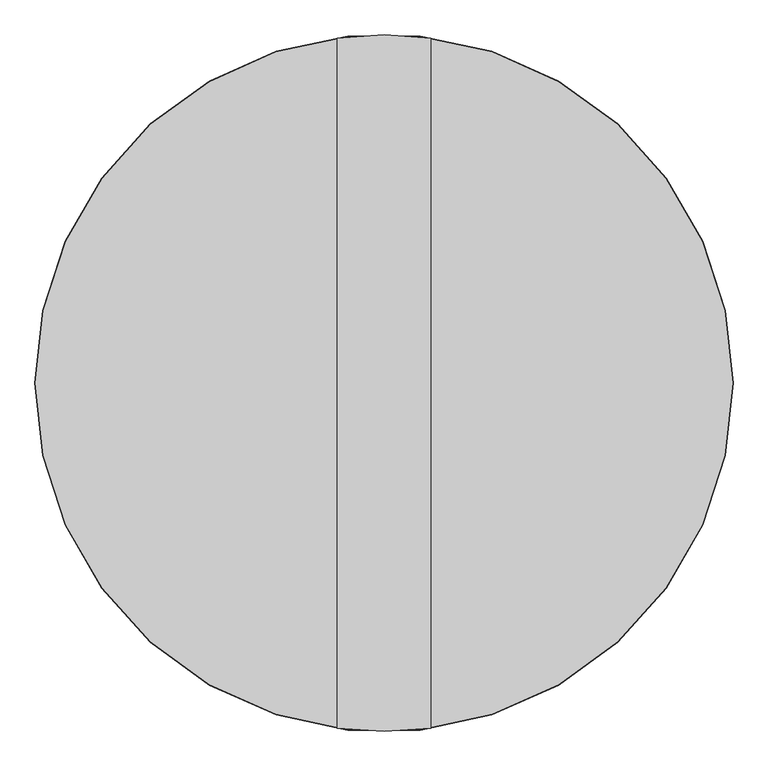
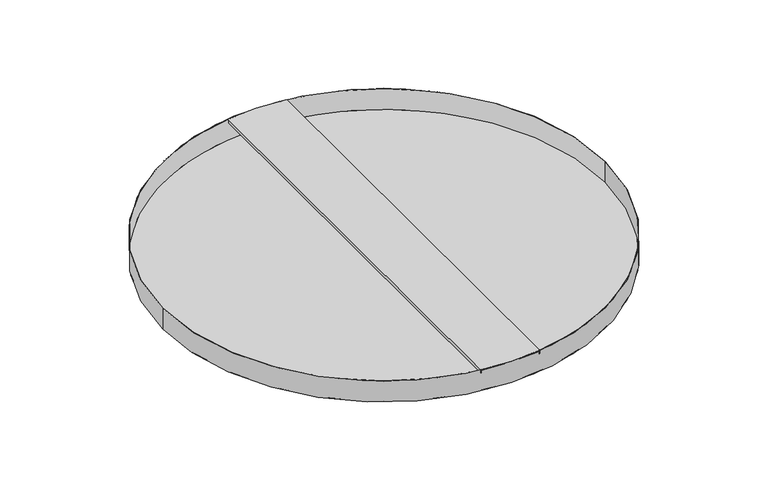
"""IFC4 building model written with IfcOpenShell, lengths in millimetres: proxy geometry, durlum_TOMEO-R : durlum_TOMEO-R 1200 TR."""

import ifcopenshell
import ifcopenshell.guid

model = None  # the IFC model being written
_history = None  # IfcOwnerHistory: only IFC2X3 demands one
_inside = {}  # id of a spatial element -> (the spatial element, [elements in it])
_under = {}  # id of a project, library or spatial element -> (it, [spatial elements below it])
_declared = {}  # id of a project -> (the project, [libraries it declares])
_typed = {}  # id of a type object -> (the type object, [elements of that type])
_made_of = {}  # id of a material, layer set ... -> (it, [elements and type objects made of it])


def new_model(schema):
    """Start an empty IFC model of exactly this schema.

    Asked for "IFC4X3", IfcOpenShell would pick the latest addendum, in which some entities
    have other attributes; the version numbers below select the first issue.
    IFC2X3 requires an IfcOwnerHistory on every rooted entity: one is made here for all.
    """
    global model, _history
    if schema == "IFC4X3":
        model = ifcopenshell.file(schema_version=(4, 3, 0, 0))
    else:
        model = ifcopenshell.file(schema=schema)
    _inside.clear()
    _under.clear()
    _declared.clear()
    _typed.clear()
    _made_of.clear()
    _history = None
    if model.schema == "IFC2X3":
        org = make("IfcOrganization", Name="unknown")
        user = make(
            "IfcPersonAndOrganization",
            ThePerson=make("IfcPerson", FamilyName="unknown"),
            TheOrganization=org,
        )
        app = make(
            "IfcApplication",
            ApplicationDeveloper=org,
            Version="unknown",
            ApplicationFullName="unknown",
            ApplicationIdentifier="unknown",
        )
        _history = make(
            "IfcOwnerHistory",
            OwningUser=user,
            OwningApplication=app,
            ChangeAction="ADDED",
            CreationDate=0,
        )
    return model


def make(cls, **values):
    """One entity of the class cls with the attributes given. An attribute that is None is left unset."""
    return model.create_entity(
        cls, **{name: value for name, value in values.items() if value is not None}
    )


def rooted(cls, **values):
    """An entity with a GlobalId (a new one), such as an element, a storey or a relation."""
    return make(cls, GlobalId=ifcopenshell.guid.new(), OwnerHistory=_history, **values)


def si_unit(unit_type, name, prefix=None):
    """IfcSIUnit, for example si_unit("LENGTHUNIT", "METRE", prefix="MILLI")."""
    return make("IfcSIUnit", UnitType=unit_type, Prefix=prefix, Name=name)


def assignment(units):
    """IfcUnitAssignment: the units of a project."""
    return None if units is None else make("IfcUnitAssignment", Units=units)


def point(xyz):
    """IfcCartesianPoint."""
    return None if xyz is None else make("IfcCartesianPoint", Coordinates=xyz)


def direction(xyz):
    """IfcDirection."""
    return None if xyz is None else make("IfcDirection", DirectionRatios=xyz)


def frame(location, z_axis=None, x_axis=None):
    """IfcAxis2Placement3D, a coordinate frame: its origin and axes. An axis left out is left unset."""
    return make(
        "IfcAxis2Placement3D",
        Location=point(location),
        Axis=direction(z_axis),
        RefDirection=direction(x_axis),
    )


def frame_2d(location, x_axis=None):
    """IfcAxis2Placement2D, a coordinate frame in the plane: its origin and x axis."""
    return make(
        "IfcAxis2Placement2D", Location=point(location), RefDirection=direction(x_axis)
    )


def origin():
    """The frame at (0, 0, 0) with its axes left unset."""
    return frame((0.0, 0.0, 0.0))


def origin_with_axes():
    """The frame at (0, 0, 0) with the z axis (0, 0, 1) and the x axis (1, 0, 0) written out."""
    return frame((0.0, 0.0, 0.0), z_axis=(0.0, 0.0, 1.0), x_axis=(1.0, 0.0, 0.0))


def origin_2d():
    """The frame at (0, 0) in the plane with its x axis left unset."""
    return frame_2d((0.0, 0.0))


def place(relative_to, where):
    """IfcLocalPlacement: puts the frame where relative to a parent placement (None: the world)."""
    return make(
        "IfcLocalPlacement", PlacementRelTo=relative_to, RelativePlacement=where
    )


def context(
    kind, dimensions, precision=None, world=None, true_north=None, identifier=None
):
    """IfcGeometricRepresentationContext, for example the 3D "Model" context."""
    return make(
        "IfcGeometricRepresentationContext",
        ContextIdentifier=identifier,
        ContextType=kind,
        CoordinateSpaceDimension=dimensions,
        Precision=precision,
        WorldCoordinateSystem=world,
        TrueNorth=true_north,
    )


def project(units=None, contexts=None):
    """IfcProject with its units and contexts."""
    return rooted(
        "IfcProject",
        Name="project",
        RepresentationContexts=contexts,
        UnitsInContext=assignment(units),
    )


def spatial(cls, under=None, at=None, **own):
    """A site, building, storey or space (cls), placed at a placement, below another one or the project."""
    s = rooted(cls, ObjectPlacement=at, **own)
    if under is not None:
        _under.setdefault(under.id(), (under, []))[1].append(s)
    return s


def circle_curve(where, radius):
    """IfcCircle in the frame where."""
    return make("IfcCircle", Position=where, Radius=radius)


def trimmed(basis, trim1, trim2, sense, master):
    """IfcTrimmedCurve: the piece of a basis curve between two trims."""
    return make(
        "IfcTrimmedCurve",
        BasisCurve=basis,
        Trim1=trim1,
        Trim2=trim2,
        SenseAgreement=sense,
        MasterRepresentation=master,
    )


def segment(curve, same_sense, transition):
    """IfcCompositeCurveSegment."""
    return make(
        "IfcCompositeCurveSegment",
        Transition=transition,
        SameSense=same_sense,
        ParentCurve=curve,
    )


def composite_curve(segments, self_intersect=None):
    """IfcCompositeCurve: segments joined end to end."""
    return make("IfcCompositeCurve", Segments=segments, SelfIntersect=self_intersect)


def outline(outer, holes=None, kind="AREA"):
    """IfcArbitraryClosedProfileDef: a profile drawn as a closed curve; with holes, ...WithVoids."""
    if holes is None:
        return make("IfcArbitraryClosedProfileDef", ProfileType=kind, OuterCurve=outer)
    return make(
        "IfcArbitraryProfileDefWithVoids",
        ProfileType=kind,
        OuterCurve=outer,
        InnerCurves=holes,
    )


def extrude(swept, where, along, depth):
    """IfcExtrudedAreaSolid: the profile swept, set in the frame where, extruded along a direction by depth."""
    return make(
        "IfcExtrudedAreaSolid",
        SweptArea=swept,
        Position=where,
        ExtrudedDirection=direction(along),
        Depth=depth,
    )


def shape(context_of_items, identifier, shape_type, items):
    """IfcShapeRepresentation: the items that make up one representation, for example the "Body"."""
    return make(
        "IfcShapeRepresentation",
        ContextOfItems=context_of_items,
        RepresentationIdentifier=identifier,
        RepresentationType=shape_type,
        Items=items,
    )


def source(mapping_origin, context_of_items, identifier, shape_type, items):
    """IfcRepresentationMap: a shape defined once, which mapped items show again and again."""
    return make(
        "IfcRepresentationMap",
        MappingOrigin=mapping_origin,
        MappedRepresentation=shape(context_of_items, identifier, shape_type, items),
    )


def transform(
    local_origin,
    x_axis=None,
    y_axis=None,
    z_axis=None,
    scale=None,
    scale2=None,
    scale3=None,
    uniform=True,
):
    """IfcCartesianTransformationOperator3D, or its non-uniform kind. x_axis, y_axis, z_axis: its Axis1, 2, 3."""
    if uniform:
        return make(
            "IfcCartesianTransformationOperator3D",
            Axis1=direction(x_axis),
            Axis2=direction(y_axis),
            LocalOrigin=point(local_origin),
            Scale=scale,
            Axis3=direction(z_axis),
        )
    return make(
        "IfcCartesianTransformationOperator3DnonUniform",
        Axis1=direction(x_axis),
        Axis2=direction(y_axis),
        LocalOrigin=point(local_origin),
        Scale=scale,
        Axis3=direction(z_axis),
        Scale2=scale2,
        Scale3=scale3,
    )


def mapped(mapping_source, mapping_target):
    """IfcMappedItem: shows the shape of a source again, moved by a transform."""
    return make(
        "IfcMappedItem", MappingSource=mapping_source, MappingTarget=mapping_target
    )


def made_of(thing, what):
    """Note that an element or type object is made of a material, layer set ...; save() writes the relation."""
    if what is not None:
        _made_of.setdefault(what.id(), (what, []))[1].append(thing)
    return thing


def element(
    cls,
    number,
    at=None,
    inside=None,
    cuts=None,
    type_object=None,
    material=None,
    context=None,
    identifier="Body",
    shape_type=None,
    held_by="IfcProductDefinitionShape",
    body=None,
    shapes=None,
    **own,
):
    """One element of the class cls, such as IfcWall. Its Tag is "e" and its number.

    at: its placement. inside: the storey or other place that contains it. cuts: it is an
    opening in that element (IfcRelVoidsElement). A single representation is given by context,
    identifier, shape_type and body (its items); several are given by shapes. held_by: the class
    of the entity that holds the representations. save() writes the other relations.
    """
    e = rooted(cls, Tag="e%d" % number, ObjectPlacement=at, **own)
    if body is not None:
        shapes = [shape(context, identifier, shape_type, body)]
    if shapes is not None:
        e.Representation = make(held_by, Representations=shapes)
    if inside is not None:
        _inside.setdefault(inside.id(), (inside, []))[1].append(e)
    if cuts is not None:
        rooted(
            "IfcRelVoidsElement", RelatingBuildingElement=cuts, RelatedOpeningElement=e
        )
    if type_object is not None:
        _typed.setdefault(type_object.id(), (type_object, []))[1].append(e)
    return made_of(e, material)


def aggregate(whole, parts):
    """IfcRelAggregates: a whole, such as a stair, and the parts it consists of."""
    return rooted("IfcRelAggregates", RelatingObject=whole, RelatedObjects=parts)


def save(model, path):
    """Write the relations noted so far, then the file.

    IfcRelAggregates (storeys below a building ...), IfcRelContainedInSpatialStructure (elements
    in a storey), IfcRelDefinesByType, IfcRelAssociatesMaterial and IfcRelDeclares: one each for
    every whole, place, type object, material and project.
    """
    for whole, parts in _under.values():
        aggregate(whole, parts)
    for where, things in _inside.values():
        rooted(
            "IfcRelContainedInSpatialStructure",
            RelatedElements=things,
            RelatingStructure=where,
        )
    for kind, things in _typed.values():
        rooted("IfcRelDefinesByType", RelatedObjects=things, RelatingType=kind)
    for what, things in _made_of.values():
        rooted("IfcRelAssociatesMaterial", RelatedObjects=things, RelatingMaterial=what)
    for by, libraries in _declared.values():
        rooted("IfcRelDeclares", RelatingContext=by, RelatedDefinitions=libraries)
    model.write(path)


def plane_surface(at):
    """IfcPlane: the flat surface through the origin of the frame at, square to its z axis."""
    return make("IfcPlane", Position=at)


def cylinder_surface(at, radius):
    """IfcCylindricalSurface: all points at the distance radius from the z axis of the frame at."""
    return make("IfcCylindricalSurface", Position=at, Radius=radius)


def advanced_brep(points, edges, surfaces, faces):
    """IfcAdvancedBrep: a solid bounded by faces that lie on surfaces and meet in shared edges.

    An edge is (start, end): straight between two places in points (the first is 0);
    or (start, end, curve); or (start, end, curve, False) where it runs against its curve.
    A face is (place in surfaces, loops), or (place, loops, False) where it looks against
    its surface's normal. A loop lists edges by number (the first is 1), with a minus sign
    where the edge is run from its end to its start. The first loop is the outer one.
    """
    corners = [point(p) for p in points]
    vertices = [make("IfcVertexPoint", VertexGeometry=c) for c in corners]
    made = []
    for start, end, *more in edges:
        made.append(
            make(
                "IfcEdgeCurve",
                EdgeStart=vertices[start],
                EdgeEnd=vertices[end],
                EdgeGeometry=more[0] if more else make("IfcPolyline", Points=[corners[start], corners[end]]),
                SameSense=more[1] if len(more) > 1 else True,
            )
        )
    hull = []
    for where, loops, *sense in faces:
        bounds = []
        for j, loop in enumerate(loops):
            ring = [make("IfcOrientedEdge", EdgeElement=made[abs(k) - 1], Orientation=k > 0) for k in loop]
            bounds.append(
                make(
                    "IfcFaceOuterBound" if j == 0 else "IfcFaceBound",
                    Bound=make("IfcEdgeLoop", EdgeList=ring),
                    Orientation=True,
                )
            )
        hull.append(make("IfcAdvancedFace", Bounds=bounds, FaceSurface=surfaces[where], SameSense=sense[0] if sense else True))
    return make("IfcAdvancedBrep", Outer=make("IfcClosedShell", CfsFaces=hull))


def generic_models_4925be76(model_context):
    return source(origin(), model_context, "Body", "SolidModel", [
        advanced_brep(
        [(-80.0, 593.6337255, 60.0), (-80.0, -593.6337255, 60.0), (0.0, -599.0, 60.0), (80.0, -593.6337255, 60.0), (80.0, 593.6337255, 60.0), (0.0, 599.0, 60.0), (80.0, -593.6337255, 51.2547795), (80.0, 593.6337255, 51.2547795), (78.5, -593.8339414, 51.2547795), (78.5, 593.8339414, 51.2547795), (78.5, -593.8339414, 58.5), (78.5, 593.8339414, 58.5), (0.0, -599.0, 58.5), (-78.5, -593.8339414, 58.5), (-78.5, 593.8339414, 58.5), (0.0, 599.0, 58.5), (-78.5, -593.8339414, 51.2547795), (-78.5, 593.8339414, 51.2547795), (-80.0, -593.6337255, 51.2547795), (-80.0, 593.6337255, 51.2547795)],
        [
            (0, 1),
            (1, 2, circle_curve(frame((0.0, 0.0, 60.0), z_axis=(0.0, 0.0, 1.0), x_axis=(0.0, -1.0, 0.0)), 599.0)),
            (2, 3, circle_curve(frame((0.0, 0.0, 60.0), z_axis=(0.0, 0.0, 1.0), x_axis=(0.0, -1.0, 0.0)), 599.0)),
            (3, 4),
            (4, 5, circle_curve(frame((0.0, 0.0, 60.0), z_axis=(0.0, 0.0, 1.0), x_axis=(0.0, -1.0, 0.0)), 599.0)),
            (5, 0, circle_curve(frame((0.0, 0.0, 60.0), z_axis=(0.0, 0.0, 1.0), x_axis=(0.0, -1.0, 0.0)), 599.0)),
            (3, 6),
            (6, 7),
            (7, 4),
            (6, 8, circle_curve(frame((0.0, 0.0, 51.2547795), z_axis=(0.0, 0.0, -1.0), x_axis=(0.0, -1.0, 0.0)), 599.0)),
            (8, 9),
            (9, 7, circle_curve(frame((0.0, 0.0, 51.2547795), z_axis=(0.0, 0.0, -1.0), x_axis=(0.0, -1.0, 0.0)), 599.0)),
            (8, 10),
            (10, 11),
            (11, 9),
            (10, 12, circle_curve(frame((0.0, 0.0, 58.5), z_axis=(0.0, 0.0, -1.0), x_axis=(0.0, -1.0, 0.0)), 599.0)),
            (12, 13, circle_curve(frame((0.0, 0.0, 58.5), z_axis=(0.0, 0.0, -1.0), x_axis=(0.0, -1.0, 0.0)), 599.0)),
            (13, 14),
            (14, 15, circle_curve(frame((0.0, 0.0, 58.5), z_axis=(0.0, 0.0, -1.0), x_axis=(0.0, -1.0, 0.0)), 599.0)),
            (15, 11, circle_curve(frame((0.0, 0.0, 58.5), z_axis=(0.0, 0.0, -1.0), x_axis=(0.0, -1.0, 0.0)), 599.0)),
            (13, 16),
            (16, 17),
            (17, 14),
            (16, 18, circle_curve(frame((0.0, 0.0, 51.2547795), z_axis=(0.0, 0.0, -1.0), x_axis=(0.0, -1.0, 0.0)), 599.0)),
            (18, 19),
            (19, 17, circle_curve(frame((0.0, 0.0, 51.2547795), z_axis=(0.0, 0.0, -1.0), x_axis=(0.0, -1.0, 0.0)), 599.0)),
            (0, 19),
            (18, 1),
            (5, 15),
            (12, 2),
        ],
        [
            plane_surface(frame((-80.0, 599.0, 60.0), z_axis=(0.0, 0.0, 1.0), x_axis=(0.0, -1.0, 0.0))),
            plane_surface(frame((80.0, 599.0, 60.0), z_axis=(1.0, 0.0, 0.0), x_axis=(0.0, -1.0, 0.0))),
            plane_surface(frame((80.0, 599.0, 51.2547795), z_axis=(0.0, 0.0, -1.0), x_axis=(0.0, -1.0, 0.0))),
            plane_surface(frame((78.5, 599.0, 51.2547795), z_axis=(-1.0, 0.0, 0.0), x_axis=(0.0, -1.0, 0.0))),
            plane_surface(frame((78.5, 599.0, 58.5), z_axis=(0.0, 0.0, -1.0), x_axis=(0.0, -1.0, 0.0))),
            plane_surface(frame((-78.5, 599.0, 58.5), z_axis=(1.0, 0.0, 0.0), x_axis=(0.0, -1.0, 0.0))),
            plane_surface(frame((-78.5, 599.0, 51.2547795), z_axis=(0.0, 0.0, -1.0), x_axis=(0.0, -1.0, 0.0))),
            plane_surface(frame((-80.0, 599.0, 51.2547795), z_axis=(-1.0, 0.0, 0.0), x_axis=(0.0, -1.0, 0.0))),
            cylinder_surface(frame((0.0, 0.0, 243.6547052), z_axis=(0.0, 0.0, -1.0), x_axis=(0.0, -1.0, 0.0)), 599.0),
        ],
        [
            (0, [[1, 2, 3, 4, 5, 6]]),
            (1, [[-4, 7, 8, 9]]),
            (2, [[-8, 10, 11, 12]]),
            (3, [[-11, 13, 14, 15]]),
            (4, [[-14, 16, 17, 18, 19, 20]]),
            (5, [[-18, 21, 22, 23]]),
            (6, [[-22, 24, 25, 26]]),
            (7, [[-1, 27, -25, 28]]),
            (8, [[29, -19, -23, -26, -27, -6]]),
            (8, [[30, -2, -28, -24, -21, -17]]),
            (8, [[-29, -5, -9, -12, -15, -20]]),
            (8, [[-30, -16, -13, -10, -7, -3]]),
        ],
    ),
        extrude(outline(composite_curve([segment(trimmed(circle_curve(origin_2d(), 599.0), [point((-599.0, 0.0))], [point((599.0, 0.0))], False, "CARTESIAN"), True, "CONTINUOUS"), segment(trimmed(circle_curve(origin_2d(), 599.0), [point((599.0, 0.0))], [point((-599.0, 0.0))], False, "CARTESIAN"), True, "CONTINUOUS")], self_intersect=False)), origin_with_axes(), (0.0, 0.0, 1.0), 1.0),
        extrude(outline(composite_curve([segment(trimmed(circle_curve(origin_2d(), 600.0), [point((-600.0, 0.0))], [point((600.0, 0.0))], False, "CARTESIAN"), True, "CONTINUOUS"), segment(trimmed(circle_curve(origin_2d(), 600.0), [point((600.0, 0.0))], [point((-600.0, 0.0))], False, "CARTESIAN"), True, "CONTINUOUS")], self_intersect=False), holes=[composite_curve([segment(trimmed(circle_curve(origin_2d(), 599.0), [point((-599.0, 0.0))], [point((599.0, 0.0))], True, "CARTESIAN"), True, "CONTINUOUS"), segment(trimmed(circle_curve(origin_2d(), 599.0), [point((599.0, 0.0))], [point((-599.0, 0.0))], True, "CARTESIAN"), True, "CONTINUOUS")], self_intersect=False)]), origin_with_axes(), (0.0, 0.0, 1.0), 60.0),
    ])


if __name__ == "__main__":
    model = new_model("IFC4")
    model_context = context("Model", 3, world=origin())
    ifc_project = project(units=[si_unit("LENGTHUNIT", "METRE", prefix="MILLI")], contexts=[model_context])
    site = spatial("IfcSite", under=ifc_project)
    building = spatial("IfcBuilding", under=site)
    placement = place(None, origin())
    generic_models_shape = generic_models_4925be76(model_context)
    element("IfcBuildingElementProxy", 1, Name="durlum_TOMEO-R : durlum_TOMEO-R 1200 TR", ObjectType="durlum_TOMEO-R : durlum_TOMEO-R 1200 TR", at=placement, inside=building, context=model_context, shape_type="MappedRepresentation", body=[
        mapped(generic_models_shape, transform((0.0, 0.0, 0.0), x_axis=(1.0, 0.0, 0.0), y_axis=(0.0, 1.0, 0.0), z_axis=(0.0, 0.0, 1.0))),
    ])
    save(model, "model.ifc")
